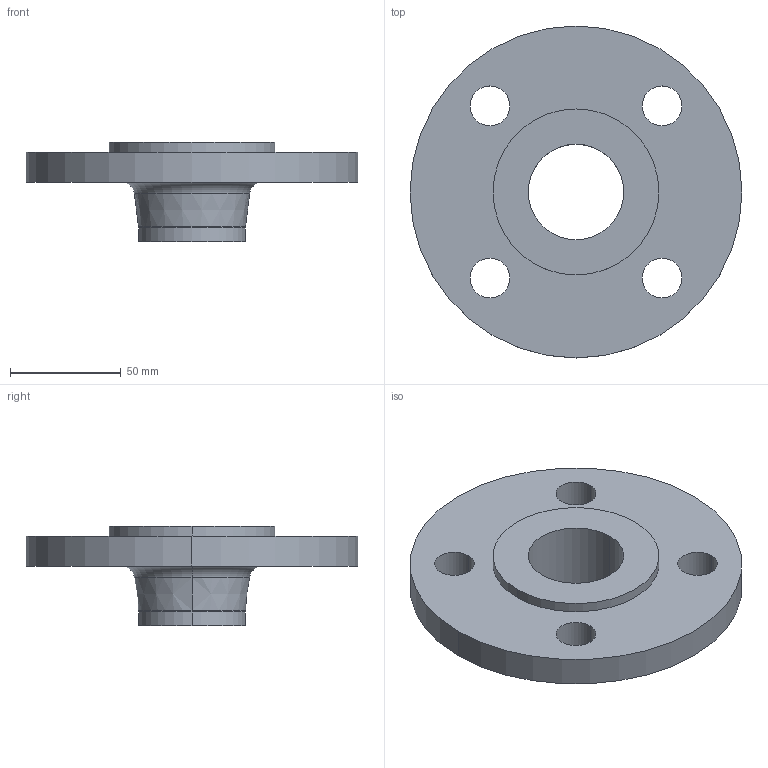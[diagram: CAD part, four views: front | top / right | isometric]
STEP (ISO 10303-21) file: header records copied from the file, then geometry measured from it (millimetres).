
FILE_DESCRIPTION (( 'STEP AP214' ), '1' );
FILE_NAME ('PN40 DN40 Type 11 - Type E Face.STEP', '2018-12-30T02:21:24', ( '' ), ( '' ), 'SwSTEP 2.0', 'SolidWorks 2019', '' );
FILE_SCHEMA (( 'AUTOMOTIVE_DESIGN' ));
Length unit declared in the file: millimetre
Products named in the file (1): PN40 DN40 Type 11 - Type E Face
Bounding box: 150 x 150 x 45 mm (x, y, z)
Volume: 233610.4 mm3; surface area: 50528.1 mm2
Topology: 1 solids, 1 shells, 26 faces, 60 edges, 38 vertices
Faces by surface type: cylinder 16, torus 4, plane 4, cone 2
Entity records: 812 total; most frequent: DIRECTION 156, CARTESIAN_POINT 125, ORIENTED_EDGE 120, AXIS2_PLACEMENT_3D 69, EDGE_CURVE 60, CIRCLE 42, VERTEX_POINT 38, EDGE_LOOP 38
